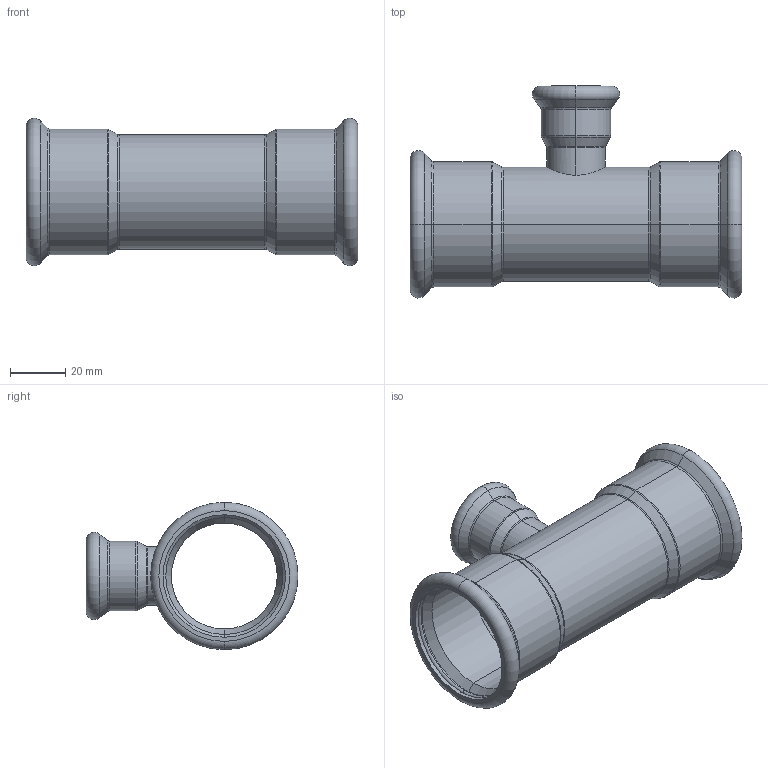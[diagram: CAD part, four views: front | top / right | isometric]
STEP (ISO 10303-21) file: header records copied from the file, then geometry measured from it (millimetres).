
FILE_DESCRIPTION (( 'STEP AP214' ), '1' );
FILE_NAME ('T42220R.STEP', '2025-08-18T00:41:16', ( '' ), ( '' ), 'SwSTEP 2.0', 'SolidWorks 2020', '' );
FILE_SCHEMA (( 'AUTOMOTIVE_DESIGN' ));
Length unit declared in the file: millimetre
Products named in the file (1): T42220R
Bounding box: 120 x 76.65 x 53.29 mm (x, y, z)
Volume: 30438.6 mm3; surface area: 41914.8 mm2
Topology: 4 solids, 4 shells, 98 faces, 198 edges, 106 vertices
Faces by surface type: torus 42, cylinder 26, cone 24, plane 6
Entity records: 3884 total; most frequent: CARTESIAN_POINT 594, DIRECTION 536, ORIENTED_EDGE 396, AXIS2_PLACEMENT_3D 243, EDGE_CURVE 198, CIRCLE 144, EDGE_LOOP 106, VERTEX_POINT 106
